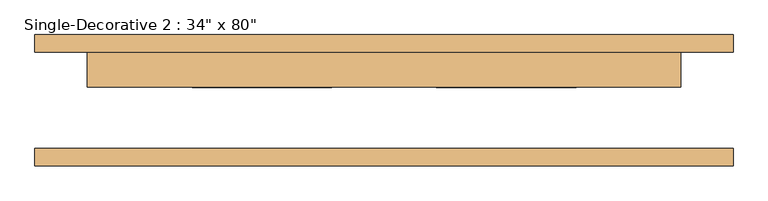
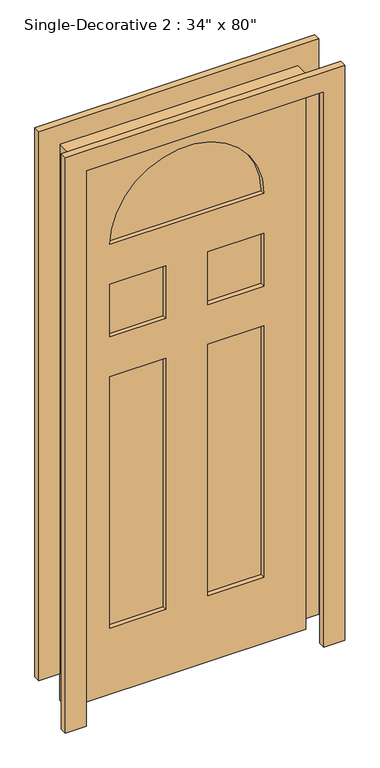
"""IFC4 building model written with IfcOpenShell, lengths in millimetres: door geometry."""

from ifc_helpers import new_model, si_unit, point, frame, frame_2d, origin, place, context, project, spatial, polyline, circle_curve, trimmed, segment, composite_curve, outline, extrude, source, transform, mapped, element, save


def door_17772045(model_context):
    return source(origin(), model_context, "Body", "SweptSolid", [
        extrude(outline(polyline([(0.0, -431.8), (0.0, 431.8), (2133.6, 431.8), (2133.6, -431.8), (0.0, -431.8)]), holes=[polyline([(254.0, -76.2), (254.0, -279.4), (1219.2, -279.4), (1219.2, -76.2), (254.0, -76.2)]), polyline([(254.0, 279.4), (254.0, 76.2), (1219.2, 76.2), (1219.2, 279.4), (254.0, 279.4)]), polyline([(1371.6, 76.2), (1574.8, 76.2), (1574.8, 279.4), (1371.6, 279.4), (1371.6, 76.2)]), polyline([(1371.6, -279.4), (1574.8, -279.4), (1574.8, -76.2), (1371.6, -76.2), (1371.6, -279.4)]), composite_curve([segment(polyline([(1727.2, 279.4), (1727.2, -279.4)]), True, "CONTINUOUS"), segment(trimmed(circle_curve(frame_2d((1727.2, 0.0)), 279.4), [point((1727.2, -279.4))], [point((1727.2, 279.4))], True, "CARTESIAN"), True, "CONTINUOUS")], self_intersect=False)]), frame((0.0, 19.2, 0.0), z_axis=(0.0, 1.0, 0.0), x_axis=(0.0, 0.0, 1.0)), (0.0, 0.0, 1.0), 50.8),
        extrude(outline(polyline([(0.0, 431.8), (0.0, 508.0), (2209.8, 508.0), (2209.8, -508.0), (0.0, -508.0), (0.0, -431.8), (2133.6, -431.8), (2133.6, 431.8), (0.0, 431.8)])), frame((0.0, -95.4, 0.0), z_axis=(0.0, 1.0, 0.0), x_axis=(0.0, 0.0, 1.0)), (0.0, 0.0, 1.0), 25.4),
        extrude(outline(polyline([(2209.8, -508.0), (101.6, -508.0), (101.6, -431.8), (2133.6, -431.8), (2133.6, 431.8), (0.0, 431.8), (0.0, 508.0), (2209.8, 508.0), (2209.8, -508.0)])), frame((0.0, 70.0, 0.0), z_axis=(0.0, 1.0, 0.0), x_axis=(0.0, 0.0, 1.0)), (0.0, 0.0, 1.0), 25.4),
        extrude(outline(composite_curve([segment(polyline([(1727.2, -279.4), (1727.2, 279.4)]), True, "CONTINUOUS"), segment(trimmed(circle_curve(frame_2d((1727.2, 0.0)), 279.4), [point((1727.2, 279.4))], [point((1727.2, -279.4))], False, "CARTESIAN"), True, "CONTINUOUS")], self_intersect=False)), frame((0.0, 36.1333333, 0.0), z_axis=(0.0, 1.0, 0.0), x_axis=(0.0, 0.0, 1.0)), (0.0, 0.0, 1.0), 16.9333333),
        extrude(outline(polyline([(-279.4, 53.0666667), (-76.2, 53.0666667), (-76.2, 36.1333333), (-279.4, 36.1333333), (-279.4, 53.0666667)])), frame((0.0, 0.0, 254.0), z_axis=(0.0, 0.0, 1.0), x_axis=(1.0, 0.0, 0.0)), (0.0, 0.0, 1.0), 965.2),
        extrude(outline(polyline([(76.2, 53.0666667), (279.4, 53.0666667), (279.4, 36.1333333), (76.2, 36.1333333), (76.2, 53.0666667)])), frame((0.0, 0.0, 254.0), z_axis=(0.0, 0.0, 1.0), x_axis=(1.0, 0.0, 0.0)), (0.0, 0.0, 1.0), 965.2),
        extrude(outline(polyline([(76.2, 53.0666667), (279.4, 53.0666667), (279.4, 36.1333333), (76.2, 36.1333333), (76.2, 53.0666667)])), frame((0.0, 0.0, 1371.6), z_axis=(0.0, 0.0, 1.0), x_axis=(1.0, 0.0, 0.0)), (0.0, 0.0, 1.0), 203.2),
        extrude(outline(polyline([(-279.4, 53.0666667), (-76.2, 53.0666667), (-76.2, 36.1333333), (-279.4, 36.1333333), (-279.4, 53.0666667)])), frame((0.0, 0.0, 1371.6), z_axis=(0.0, 0.0, 1.0), x_axis=(1.0, 0.0, 0.0)), (0.0, 0.0, 1.0), 203.2),
    ])


if __name__ == "__main__":
    model = new_model("IFC4")
    model_context = context("Model", 3, world=origin())
    ifc_project = project(units=[si_unit("LENGTHUNIT", "METRE", prefix="MILLI")], contexts=[model_context])
    site = spatial("IfcSite", under=ifc_project)
    building = spatial("IfcBuilding", under=site)
    placement = place(None, origin())
    door_shape = door_17772045(model_context)
    element("IfcDoor", 1, ObjectType="Single-Decorative 2 : 34\" x 80\"", at=placement, inside=building, context=model_context, shape_type="MappedRepresentation", body=[
        mapped(door_shape, transform((0.0, 0.0, 0.0), x_axis=(1.0, 0.0, 0.0), y_axis=(0.0, 1.0, 0.0), z_axis=(0.0, 0.0, 1.0))),
    ])
    save(model, "model.ifc")
